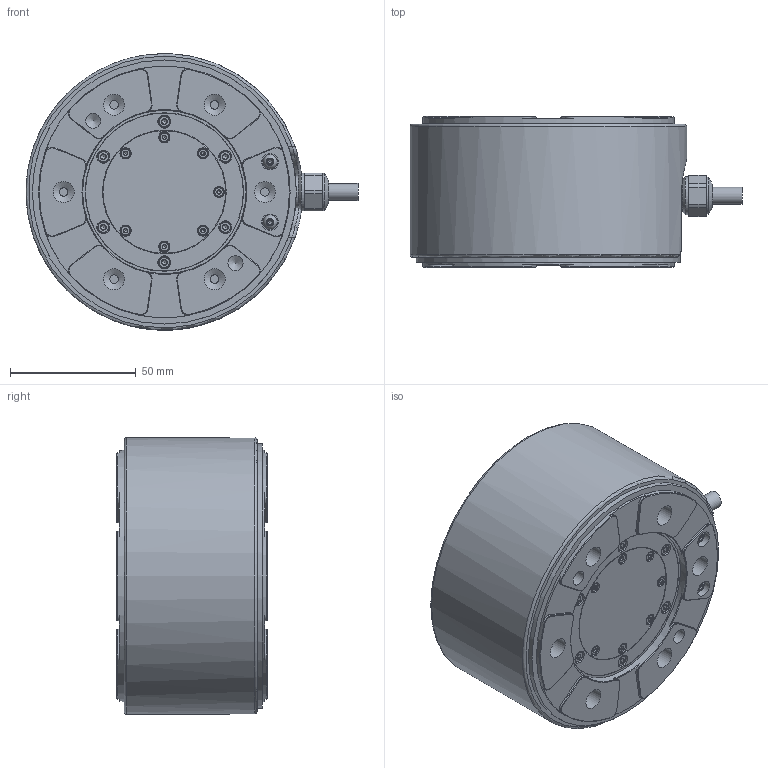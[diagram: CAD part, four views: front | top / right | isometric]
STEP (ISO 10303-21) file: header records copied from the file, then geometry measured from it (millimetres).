
FILE_DESCRIPTION(/* description */ ('Alibre Inc.'),/* implementation_level */ '2;1');
FILE_NAME(/* name */ 'export0',/* time_stamp */ '2016-12-12T17:14:57+01:00',/* author */ (''),/* organization */ (''),/* preprocessor_version */ 'ST-DEVELOPER v14',/* originating_system */ 'Alibre',/* authorisation */ '');
FILE_SCHEMA (('CONFIG_CONTROL_DESIGN'));
Length unit declared in the file: centimetre
Products named in the file (17): ID_1; ID_2; _M2x5; _M2x10; DIN 934 - d M2 - 10; ID_3; _HUGRO 101.1508.10-(6.5); ID_4; _SFS FN 123 116913 Zylinderschraube DIN 912 rostfreier Stahl   rostfre
i A2 M2.5x5; HI_BN 1593 1568930 hexagon socket button head screw M3x20; ID_5
Bounding box: 132 x 60 x 110 mm (x, y, z)
Volume: 518526.4 mm3; surface area: 107222.5 mm2
Topology: 40 solids, 43 shells, 1396 faces, 3243 edges, 2007 vertices
Faces by surface type: plane 633, cone 424, cylinder 286, torus 45, bspline 6, sphere 2
Full cylindrical faces by diameter (mm): 1.567 x15, 2 x18, 2.013 x6, 2.3 x7, 2.459 x2, 2.5 x6, 2.6 x6, 2.8 x9, 3 x2, 3.3 x2, 3.8 x15, 4 x1, 4.5 x13, 5 x12, 5.2 x15, 6 x4, 6.5 x3, 6.8 x1, 8.2 x1, 8.376 x12, 8.6 x1, 9.9 x2, 10.376 x1, 10.5 x1, 10.6 x1, 12 x1, 12.59 x1, 13 x1, 13.35 x1, 14.8 x1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
Entity records: 26456 total; most frequent: CARTESIAN_POINT 6778, DIRECTION 3538, ORIENTED_EDGE 3278, EDGE_CURVE 1639, AXIS2_PLACEMENT_3D 1544, VERTEX_POINT 1158, FACE_BOUND 1149, EDGE_LOOP 1128
